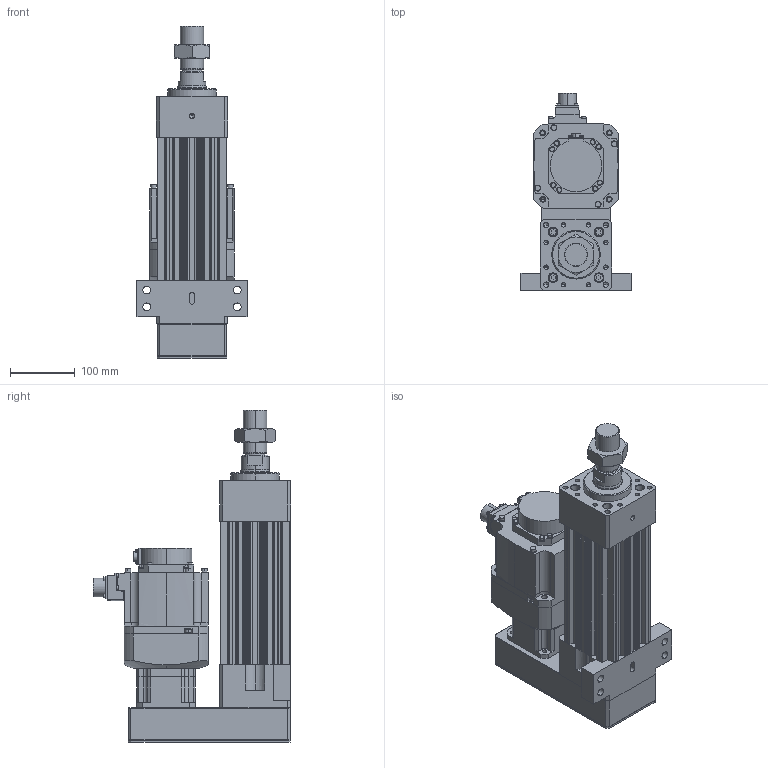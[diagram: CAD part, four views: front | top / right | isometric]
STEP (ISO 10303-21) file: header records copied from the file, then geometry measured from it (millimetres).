
FILE_DESCRIPTION (( 'STEP AP203' ), '1' );
FILE_NAME ('HES110NS(HS)-P050-W010G00-M-FFC.STEP', '2023-01-26T09:43:45', ( 'tms' ), ( '' ), 'SwSTEP 2.0', 'SolidWorks 2013', '' );
FILE_SCHEMA (( 'CONFIG_CONTROL_DESIGN' ));
Length unit declared in the file: millimetre
Products named in the file (8): AB0901; HES110NS(HS)-P050-W010G00-M-FFC; HG-SR102; P0401301004; HES110 ROD M ST050; M36X1.5P; AB090-003[HG-SR102B]; HES110-P050-G090-FFC
Assembly tree (7 placements, depth 3):
  HES110NS(HS)-P050-W010G00-M-FFC
    HES110-P050-G090-FFC
    HES110 ROD M ST050
    M36X1.5P
    AB090-003[HG-SR102B]
      AB0901
      P0401301004
    HG-SR102
Bounding box: 170 x 304.99 x 513 mm (x, y, z)
Volume: 5865811.4 mm3; surface area: 675386.7 mm2
Topology: 4 solids, 11 shells, 1111 faces, 2835 edges, 1826 vertices
Faces by surface type: cylinder 519, plane 486, cone 94, bspline 8, torus 4
Entity records: 35472 total; most frequent: CARTESIAN_POINT 6938, DIRECTION 6110, ORIENTED_EDGE 5574, EDGE_CURVE 2797, AXIS2_PLACEMENT_3D 2269, VERTEX_POINT 1826, LINE 1572, VECTOR 1572
